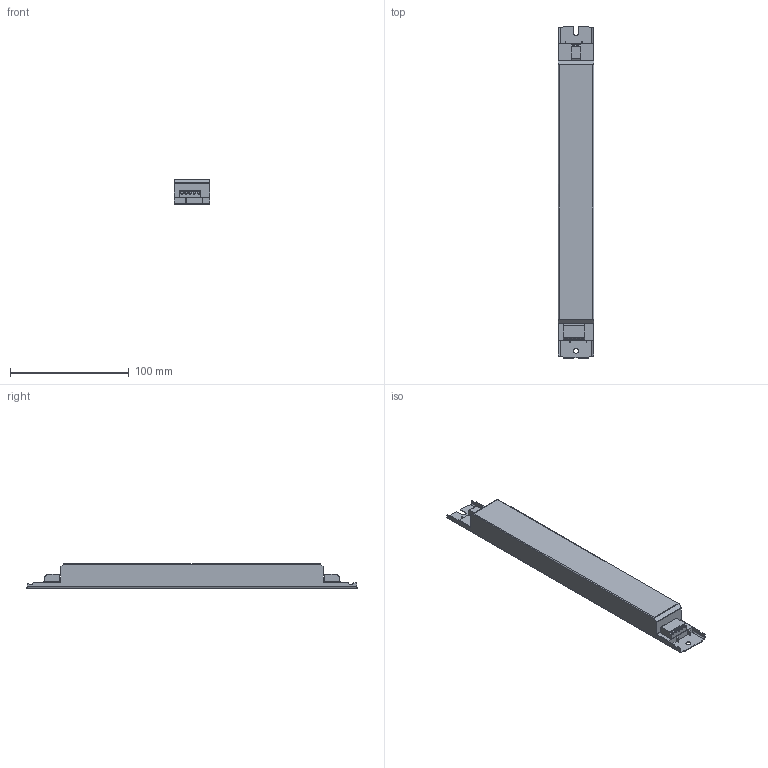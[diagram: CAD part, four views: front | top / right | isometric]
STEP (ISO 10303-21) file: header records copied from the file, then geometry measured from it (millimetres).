
FILE_DESCRIPTION((''),'2;1');
FILE_NAME('15009889Z_280X30_VEGA','2015-11-13T',('juergen.hrach'),(''),'PRO/ENGINEER BY PARAMETRIC TECHNOLOGY CORPORATION, 2015200','PRO/ENGINEER BY PARAMETRIC TECHNOLOGY CORPORATION, 2015200','');
FILE_SCHEMA(('AUTOMOTIVE_DESIGN { 1 0 10303 214 1 1 1 1 }'));
Length unit declared in the file: millimetre
Products named in the file (1): 15009889Z_280X30_VEGA
Bounding box: 30 x 280 x 21 mm (x, y, z)
Volume: 146049 mm3; surface area: 28131.1 mm2
Topology: 1 solids, 1 shells, 153 faces, 440 edges, 292 vertices
Faces by surface type: plane 83, cylinder 70
Entity records: 6919 total; most frequent: CARTESIAN_POINT 1110, ORIENTED_EDGE 880, DIRECTION 822, PRESENTATION_STYLE_ASSIGNMENT 443, STYLED_ITEM 441, CURVE_STYLE 440, EDGE_CURVE 440, VERTEX_POINT 292
